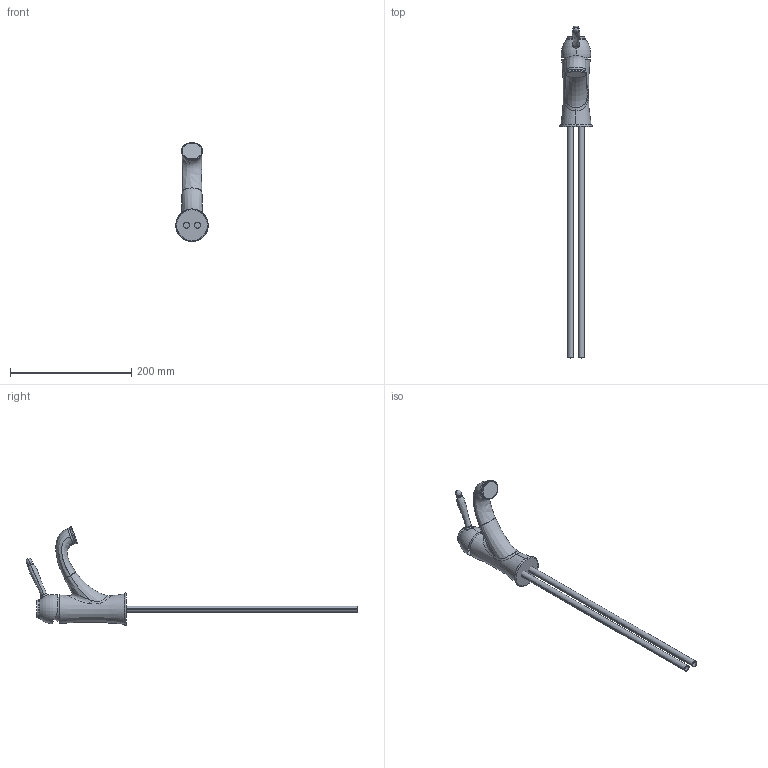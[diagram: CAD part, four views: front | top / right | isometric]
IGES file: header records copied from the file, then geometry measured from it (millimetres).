
Start section:  PTC IGES file: 37034_web.igs
Global section: file name: 37034_web.igs; native system: Creo Parametric by PTC Inc.; preprocessor: 2017380; author: jaj; organization: Unknown; date: 20181022.155847; units: millimetre
Bounding box: 53.47 x 548.45 x 163.1 mm (x, y, z)
Surface area: 93837.1 mm2 (no closed solid volume)
Topology: 0 solids, 0 shells, 56 faces, 328 edges, 382 vertices
Faces by surface type: revolution 36, bspline 18, extrusion 2
